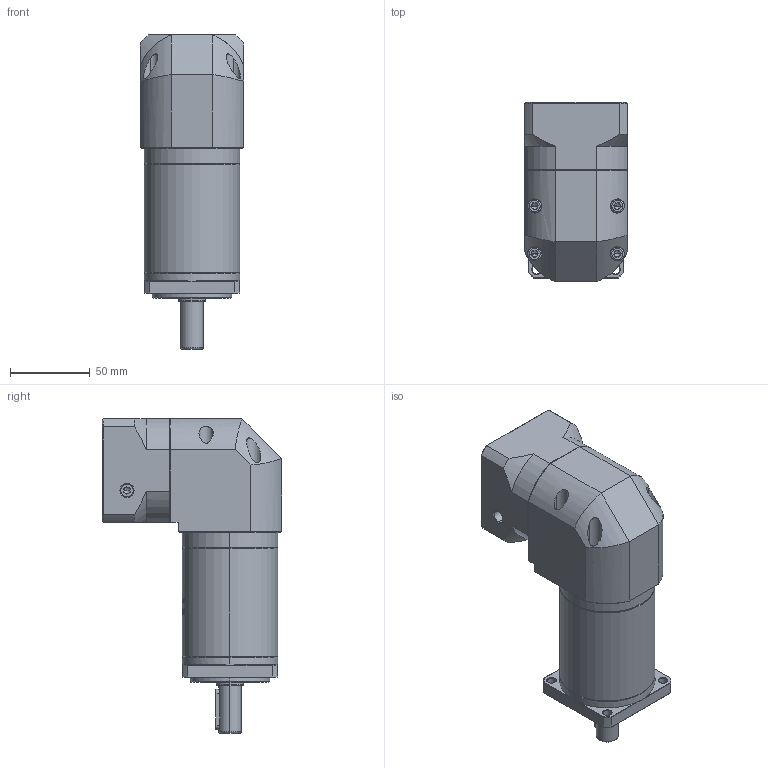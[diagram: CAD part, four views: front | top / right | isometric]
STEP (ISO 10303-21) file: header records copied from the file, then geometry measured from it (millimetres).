
FILE_DESCRIPTION (( 'STEP AP214' ), '1' );
FILE_NAME ('ZFR060-D14-L3-P2-14-60-75-M6.step', '2023-08-17T03:32:48', ( '' ), ( '' ), 'SwSTEP 2.0', 'SolidWorks 2016', '' );
FILE_SCHEMA (( 'AUTOMOTIVE_DESIGN' ));
Length unit declared in the file: millimetre
Products named in the file (1): ZFR060-D14-L3-P2-14-60-75-M6
Bounding box: 65 x 112.7 x 197.5 mm (x, y, z)
Volume: 649983.4 mm3; surface area: 86737.4 mm2
Topology: 5 solids, 6 shells, 1922 faces, 5155 edges, 3330 vertices
Faces by surface type: plane 847, cylinder 407, bspline 354, cone 288, torus 26
Entity records: 106579 total; most frequent: CARTESIAN_POINT 41497, ORIENTED_EDGE 10266, DIRECTION 7687, EDGE_CURVE 5133, VERTEX_POINT 3330, LINE 2613, VECTOR 2613, AXIS2_PLACEMENT_3D 2537
